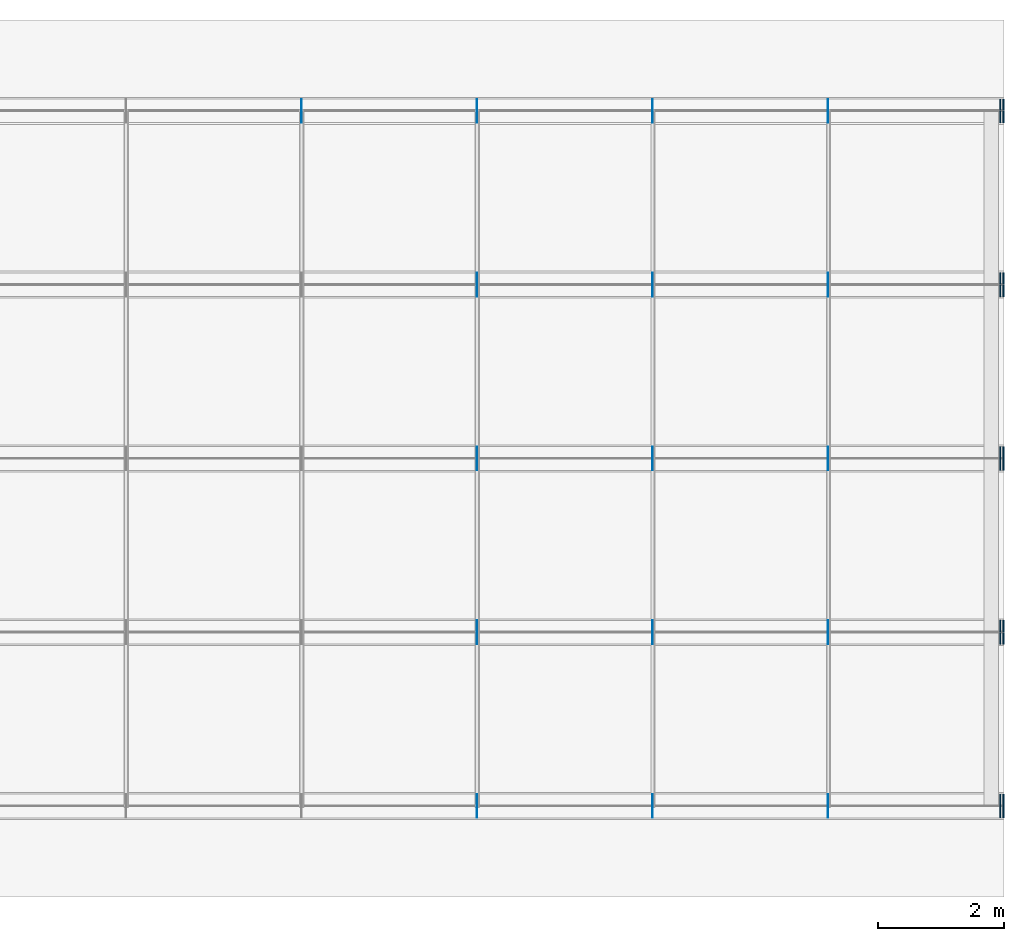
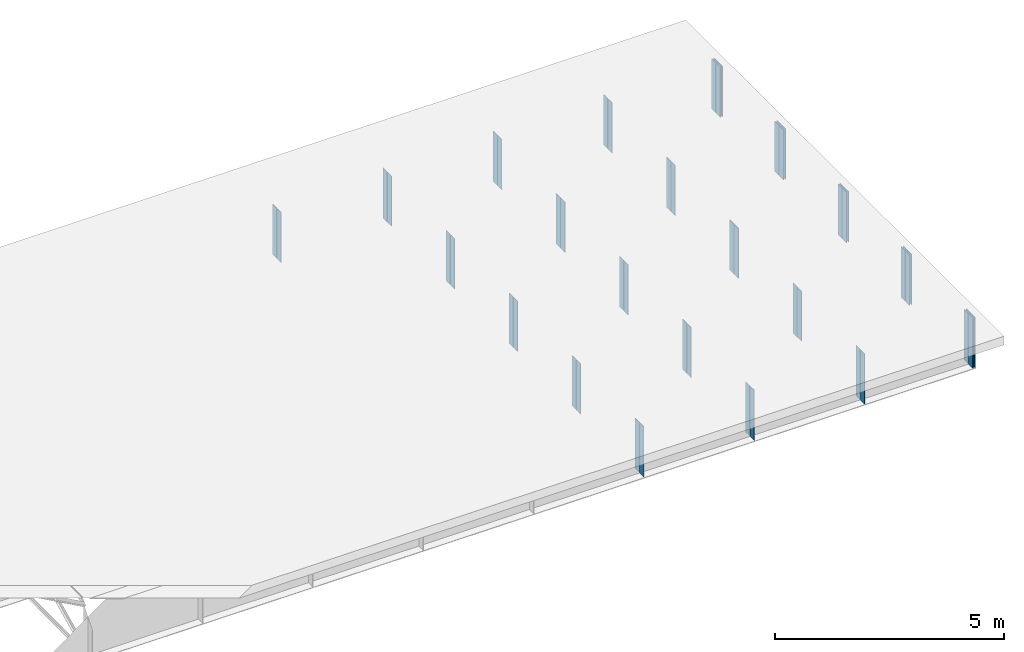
# One storey, part 13 of 13: 52 plates.
"""IFC4 building model written with IfcOpenShell, lengths in metres."""

from ifc_helpers import new_model, si_unit, frame, origin, origin_with_axes, origin_2d_with_axis, place, context, subcontext, project, spatial, rectangle, extrude, element, save


model = new_model("IFC4")

# Units and contexts
model_context = context("Model", 3, precision=1e-05, world=origin())
body_context = subcontext(model_context, "Body", "Model", "MODEL_VIEW")
ifc_project = project(units=[si_unit("LENGTHUNIT", "METRE"), si_unit("AREAUNIT", "SQUARE_METRE"), si_unit("VOLUMEUNIT", "CUBIC_METRE"), si_unit("PLANEANGLEUNIT", "RADIAN")], contexts=[model_context])

# Site, building, storey
site_placement = place(None, origin_with_axes())
site = spatial("IfcSite", under=ifc_project, at=site_placement, Name="Default Site")
building_placement = place(site_placement, origin_with_axes())
building = spatial("IfcBuilding", under=site, at=building_placement, Name="Bridge Structure")
storey_placement = place(building_placement, origin_with_axes())
storey = spatial("IfcBuildingStorey", under=building, at=storey_placement, Name="Superstructure")

# Plates
for number, where, z_axis, x_axis, name in (
    (1, (16.662, -5.40325, -0.6695), (0.0, 0.0, 1.0), (1.0, 0.0, 0.0), "Intermediate Stiffener 1"),
    (2, (16.662, -5.59675, -0.6695), (0.0, 0.0, 1.0), (1.0, 0.0, 0.0), "Intermediate Stiffener 1"),
    (3, (19.439, -5.40325, -0.6695), (0.0, 0.0, 1.0), (1.0, 0.0, 0.0), "Intermediate Stiffener 1"),
    (4, (19.439, -5.59675, -0.6695), (0.0, 0.0, 1.0), (1.0, 0.0, 0.0), "Intermediate Stiffener 1"),
    (5, (22.216, -5.40325, -0.6695), (0.0, 0.0, 1.0), (1.0, 0.0, 0.0), "Intermediate Stiffener 1"),
    (6, (22.216, -5.59675, -0.6695), (0.0, 0.0, 1.0), (1.0, 0.0, 0.0), "Intermediate Stiffener 1"),
):
    element("IfcPlate", number, at=place(storey_placement, frame(where, z_axis=z_axis, x_axis=x_axis)), inside=storey, Name=name, context=body_context, shape_type="SweptSolid", body=[
        extrude(rectangle(XDim=0.012, YDim=0.1815, at=origin_2d_with_axis()), origin_with_axes(), (0.0, 0.0, 1.0), 1.339),
    ])
for number, where, z_axis, x_axis, name in (
    (7, (24.990000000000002, -5.40325, -0.6695), (0.0, 0.0, 1.0), (1.0, 0.0, 0.0), "End Stiffener 1"),
    (8, (24.990000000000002, -5.59675, -0.6695), (0.0, 0.0, 1.0), (1.0, 0.0, 0.0), "End Stiffener 1"),
    (9, (24.94, -5.40325, -0.6695), (0.0, 0.0, 1.0), (1.0, 0.0, 0.0), "End Stiffener 1"),
    (10, (24.94, -5.59675, -0.6695), (0.0, 0.0, 1.0), (1.0, 0.0, 0.0), "End Stiffener 1"),
):
    element("IfcPlate", number, at=place(storey_placement, frame(where, z_axis=z_axis, x_axis=x_axis)), inside=storey, Name=name, context=body_context, shape_type="SweptSolid", body=[
        extrude(rectangle(XDim=0.02, YDim=0.1815, at=origin_2d_with_axis()), origin_with_axes(), (0.0, 0.0, 1.0), 1.339),
    ])
for number, where, z_axis, x_axis, name in (
    (11, (16.662, -2.65325, -0.6695), (0.0, 0.0, 1.0), (1.0, 0.0, 0.0), "Intermediate Stiffener 2"),
    (12, (16.662, -2.84675, -0.6695), (0.0, 0.0, 1.0), (1.0, 0.0, 0.0), "Intermediate Stiffener 2"),
    (13, (19.439, -2.65325, -0.6695), (0.0, 0.0, 1.0), (1.0, 0.0, 0.0), "Intermediate Stiffener 2"),
    (14, (19.439, -2.84675, -0.6695), (0.0, 0.0, 1.0), (1.0, 0.0, 0.0), "Intermediate Stiffener 2"),
    (15, (22.216, -2.65325, -0.6695), (0.0, 0.0, 1.0), (1.0, 0.0, 0.0), "Intermediate Stiffener 2"),
    (16, (22.216, -2.84675, -0.6695), (0.0, 0.0, 1.0), (1.0, 0.0, 0.0), "Intermediate Stiffener 2"),
):
    element("IfcPlate", number, at=place(storey_placement, frame(where, z_axis=z_axis, x_axis=x_axis)), inside=storey, Name=name, context=body_context, shape_type="SweptSolid", body=[
        extrude(rectangle(XDim=0.012, YDim=0.1815, at=origin_2d_with_axis()), origin_with_axes(), (0.0, 0.0, 1.0), 1.339),
    ])
for number, where, z_axis, x_axis, name in (
    (17, (24.990000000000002, -2.65325, -0.6695), (0.0, 0.0, 1.0), (1.0, 0.0, 0.0), "End Stiffener 2"),
    (18, (24.990000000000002, -2.84675, -0.6695), (0.0, 0.0, 1.0), (1.0, 0.0, 0.0), "End Stiffener 2"),
    (19, (24.94, -2.65325, -0.6695), (0.0, 0.0, 1.0), (1.0, 0.0, 0.0), "End Stiffener 2"),
    (20, (24.94, -2.84675, -0.6695), (0.0, 0.0, 1.0), (1.0, 0.0, 0.0), "End Stiffener 2"),
):
    element("IfcPlate", number, at=place(storey_placement, frame(where, z_axis=z_axis, x_axis=x_axis)), inside=storey, Name=name, context=body_context, shape_type="SweptSolid", body=[
        extrude(rectangle(XDim=0.02, YDim=0.1815, at=origin_2d_with_axis()), origin_with_axes(), (0.0, 0.0, 1.0), 1.339),
    ])
for number, where, z_axis, x_axis, name in (
    (21, (16.662, 0.09675, -0.6695), (0.0, 0.0, 1.0), (1.0, 0.0, 0.0), "Intermediate Stiffener 3"),
    (22, (16.662, -0.09675, -0.6695), (0.0, 0.0, 1.0), (1.0, 0.0, 0.0), "Intermediate Stiffener 3"),
    (23, (19.439, 0.09675, -0.6695), (0.0, 0.0, 1.0), (1.0, 0.0, 0.0), "Intermediate Stiffener 3"),
    (24, (19.439, -0.09675, -0.6695), (0.0, 0.0, 1.0), (1.0, 0.0, 0.0), "Intermediate Stiffener 3"),
    (25, (22.216, 0.09675, -0.6695), (0.0, 0.0, 1.0), (1.0, 0.0, 0.0), "Intermediate Stiffener 3"),
    (26, (22.216, -0.09675, -0.6695), (0.0, 0.0, 1.0), (1.0, 0.0, 0.0), "Intermediate Stiffener 3"),
):
    element("IfcPlate", number, at=place(storey_placement, frame(where, z_axis=z_axis, x_axis=x_axis)), inside=storey, Name=name, context=body_context, shape_type="SweptSolid", body=[
        extrude(rectangle(XDim=0.012, YDim=0.1815, at=origin_2d_with_axis()), origin_with_axes(), (0.0, 0.0, 1.0), 1.339),
    ])
for number, where, z_axis, x_axis, name in (
    (27, (24.990000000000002, 0.09675, -0.6695), (0.0, 0.0, 1.0), (1.0, 0.0, 0.0), "End Stiffener 3"),
    (28, (24.990000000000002, -0.09675, -0.6695), (0.0, 0.0, 1.0), (1.0, 0.0, 0.0), "End Stiffener 3"),
    (29, (24.94, 0.09675, -0.6695), (0.0, 0.0, 1.0), (1.0, 0.0, 0.0), "End Stiffener 3"),
    (30, (24.94, -0.09675, -0.6695), (0.0, 0.0, 1.0), (1.0, 0.0, 0.0), "End Stiffener 3"),
):
    element("IfcPlate", number, at=place(storey_placement, frame(where, z_axis=z_axis, x_axis=x_axis)), inside=storey, Name=name, context=body_context, shape_type="SweptSolid", body=[
        extrude(rectangle(XDim=0.02, YDim=0.1815, at=origin_2d_with_axis()), origin_with_axes(), (0.0, 0.0, 1.0), 1.339),
    ])
for number, where, z_axis, x_axis, name in (
    (31, (16.662, 2.84675, -0.6695), (0.0, 0.0, 1.0), (1.0, 0.0, 0.0), "Intermediate Stiffener 4"),
    (32, (16.662, 2.65325, -0.6695), (0.0, 0.0, 1.0), (1.0, 0.0, 0.0), "Intermediate Stiffener 4"),
    (33, (19.439, 2.84675, -0.6695), (0.0, 0.0, 1.0), (1.0, 0.0, 0.0), "Intermediate Stiffener 4"),
    (34, (19.439, 2.65325, -0.6695), (0.0, 0.0, 1.0), (1.0, 0.0, 0.0), "Intermediate Stiffener 4"),
    (35, (22.216, 2.84675, -0.6695), (0.0, 0.0, 1.0), (1.0, 0.0, 0.0), "Intermediate Stiffener 4"),
    (36, (22.216, 2.65325, -0.6695), (0.0, 0.0, 1.0), (1.0, 0.0, 0.0), "Intermediate Stiffener 4"),
):
    element("IfcPlate", number, at=place(storey_placement, frame(where, z_axis=z_axis, x_axis=x_axis)), inside=storey, Name=name, context=body_context, shape_type="SweptSolid", body=[
        extrude(rectangle(XDim=0.012, YDim=0.1815, at=origin_2d_with_axis()), origin_with_axes(), (0.0, 0.0, 1.0), 1.339),
    ])
for number, where, z_axis, x_axis, name in (
    (37, (24.990000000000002, 2.84675, -0.6695), (0.0, 0.0, 1.0), (1.0, 0.0, 0.0), "End Stiffener 4"),
    (38, (24.990000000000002, 2.65325, -0.6695), (0.0, 0.0, 1.0), (1.0, 0.0, 0.0), "End Stiffener 4"),
    (39, (24.94, 2.84675, -0.6695), (0.0, 0.0, 1.0), (1.0, 0.0, 0.0), "End Stiffener 4"),
    (40, (24.94, 2.65325, -0.6695), (0.0, 0.0, 1.0), (1.0, 0.0, 0.0), "End Stiffener 4"),
):
    element("IfcPlate", number, at=place(storey_placement, frame(where, z_axis=z_axis, x_axis=x_axis)), inside=storey, Name=name, context=body_context, shape_type="SweptSolid", body=[
        extrude(rectangle(XDim=0.02, YDim=0.1815, at=origin_2d_with_axis()), origin_with_axes(), (0.0, 0.0, 1.0), 1.339),
    ])
for number, where, z_axis, x_axis, name in (
    (41, (13.885, 5.59675, -0.6695), (0.0, 0.0, 1.0), (1.0, 0.0, 0.0), "Intermediate Stiffener 5"),
    (42, (13.885, 5.40325, -0.6695), (0.0, 0.0, 1.0), (1.0, 0.0, 0.0), "Intermediate Stiffener 5"),
    (43, (16.662, 5.59675, -0.6695), (0.0, 0.0, 1.0), (1.0, 0.0, 0.0), "Intermediate Stiffener 5"),
    (44, (16.662, 5.40325, -0.6695), (0.0, 0.0, 1.0), (1.0, 0.0, 0.0), "Intermediate Stiffener 5"),
    (45, (19.439, 5.59675, -0.6695), (0.0, 0.0, 1.0), (1.0, 0.0, 0.0), "Intermediate Stiffener 5"),
    (46, (19.439, 5.40325, -0.6695), (0.0, 0.0, 1.0), (1.0, 0.0, 0.0), "Intermediate Stiffener 5"),
    (47, (22.216, 5.59675, -0.6695), (0.0, 0.0, 1.0), (1.0, 0.0, 0.0), "Intermediate Stiffener 5"),
    (48, (22.216, 5.40325, -0.6695), (0.0, 0.0, 1.0), (1.0, 0.0, 0.0), "Intermediate Stiffener 5"),
):
    element("IfcPlate", number, at=place(storey_placement, frame(where, z_axis=z_axis, x_axis=x_axis)), inside=storey, Name=name, context=body_context, shape_type="SweptSolid", body=[
        extrude(rectangle(XDim=0.012, YDim=0.1815, at=origin_2d_with_axis()), origin_with_axes(), (0.0, 0.0, 1.0), 1.339),
    ])
for number, where, z_axis, x_axis, name in (
    (49, (24.990000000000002, 5.59675, -0.6695), (0.0, 0.0, 1.0), (1.0, 0.0, 0.0), "End Stiffener 5"),
    (50, (24.990000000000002, 5.40325, -0.6695), (0.0, 0.0, 1.0), (1.0, 0.0, 0.0), "End Stiffener 5"),
    (51, (24.94, 5.59675, -0.6695), (0.0, 0.0, 1.0), (1.0, 0.0, 0.0), "End Stiffener 5"),
    (52, (24.94, 5.40325, -0.6695), (0.0, 0.0, 1.0), (1.0, 0.0, 0.0), "End Stiffener 5"),
):
    element("IfcPlate", number, at=place(storey_placement, frame(where, z_axis=z_axis, x_axis=x_axis)), inside=storey, Name=name, context=body_context, shape_type="SweptSolid", body=[
        extrude(rectangle(XDim=0.02, YDim=0.1815, at=origin_2d_with_axis()), origin_with_axes(), (0.0, 0.0, 1.0), 1.339),
    ])

save(model, "model.ifc")
